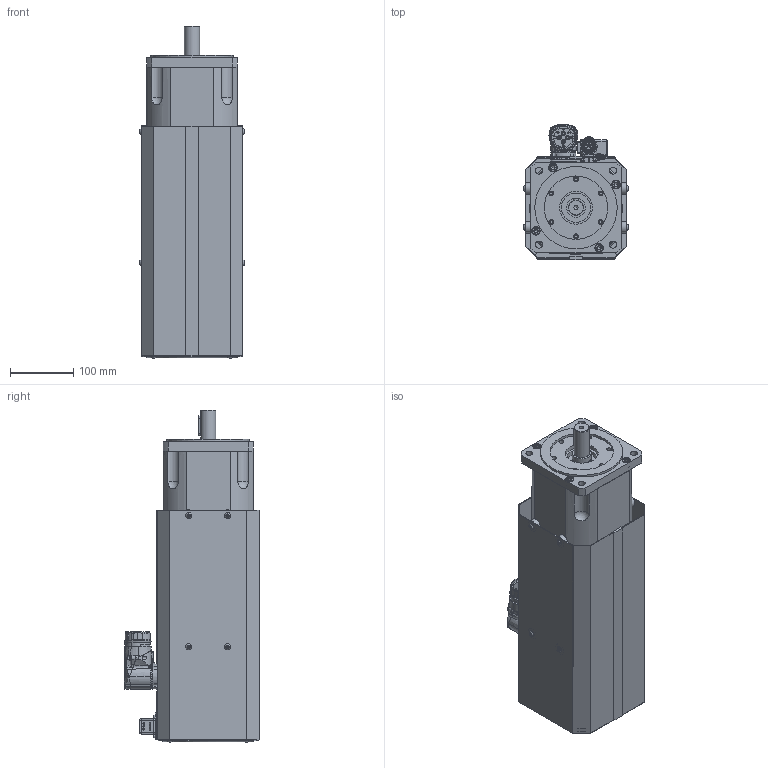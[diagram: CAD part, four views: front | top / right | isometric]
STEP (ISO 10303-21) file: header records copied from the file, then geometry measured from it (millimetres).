
FILE_DESCRIPTION(/* description */ (''),/* implementation_level */ '2;1');
FILE_NAME(/* name */ 'C:\Users\Public\Documents\Autodesk\Inventor LT 2014\Workspace\Motori Sito WEB\TG_5\DSF5_5\STEP_DSF5_5x\DSF5_54_x199.stp',/* time_stamp */ '2021-04-07T14:58:06+02:00',/* author */ ('marcor'),/* organization */ (''),/* preprocessor_version */ 'ST-DEVELOPER v15.2',/* originating_system */ 'Autodesk Inventor LT ',/* authorisation */ '');
FILE_SCHEMA (('AUTOMOTIVE_DESIGN { 1 0 10303 214 3 1 1 }'));
Products named in the file (1): DSF5_54_x199
Bounding box: 165.9 x 214.25 x 523.7 mm (x, y, z)
Volume: 7808175.6 mm3; surface area: 922869.3 mm2
Topology: 27 solids, 40 shells, 2177 faces, 5417 edges, 3510 vertices
Faces by surface type: plane 949, cylinder 487, cone 410, bspline 189, torus 105, sphere 37
Full cylindrical faces by diameter (mm): 1.2 x17, 2 x2, 2.2 x4, 2.224 x4, 2.4 x6, 2.5 x4, 2.88 x4, 3 x4, 3.26 x4, 3.5 x10, 3.6 x5, 4 x9, 4.134 x8, 4.5 x15, 4.8 x4, 4.917 x4, 5 x8, 5.4 x1, 5.5 x11, 5.9 x1, 6 x4, 6.5 x12, 6.647 x9, 7 x4, 7.5 x10, 8 x11, 8.5 x9, 10 x4, 11 x8, 12 x1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
Entity records: 71817 total; most frequent: CARTESIAN_POINT 22446, ORIENTED_EDGE 9624, DIRECTION 9426, EDGE_CURVE 4770, AXIS2_PLACEMENT_3D 3747, VERTEX_POINT 3332, EDGE_LOOP 2948, ADVANCED_FACE 2177
